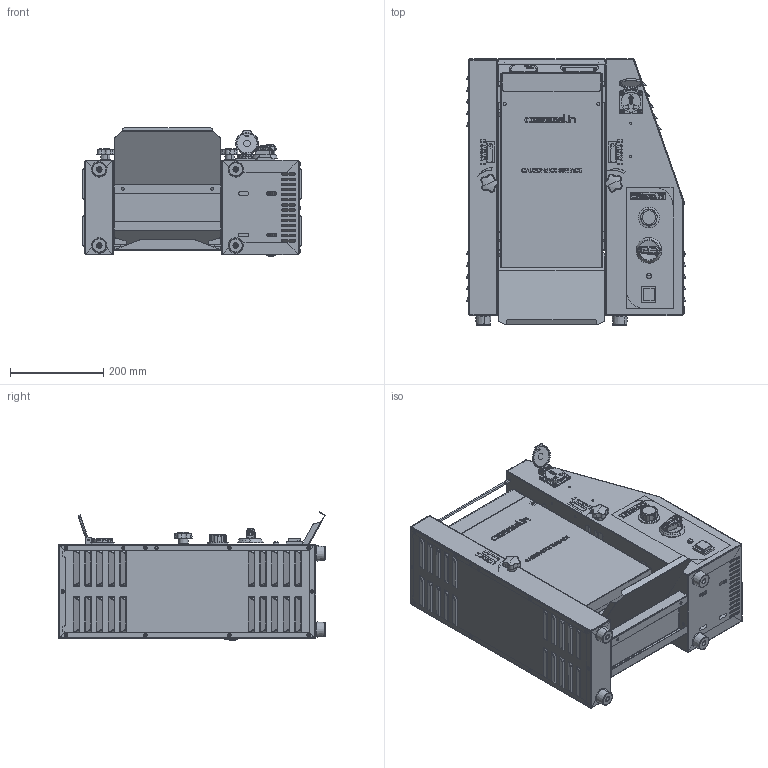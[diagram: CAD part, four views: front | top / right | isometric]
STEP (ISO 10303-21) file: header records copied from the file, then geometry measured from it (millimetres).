
FILE_DESCRIPTION (( 'STEP AP214' ), '1' );
FILE_NAME ('pres-CTV300GV.STEP', '2025-01-29T10:54:30', ( '' ), ( '' ), 'SwSTEP 2.0', 'SolidWorks 2025', '' );
FILE_SCHEMA (( 'AUTOMOTIVE_DESIGN' ));
Length unit declared in the file: millimetre
Products named in the file (74): ______________-1-solid1_1_1CG-300_______________-1-solid1_1_1; pres-CTV300GV; PA10139 __________-1-solid1_1GV-300_PA10139 __________-1-solid1_1; cross recessed pan head screws gb-69-solid1_1_1CG-300_cross recessed pan head screws gb-69-solid1_1_1; PA10139-1 __________-1-solid1_2CG-300_PA10139-1 __________-1-solid1_2; cross recessed pan head screws gb-67-solid1_1_1CG-300_cross recessed pan head screws gb-67-solid1_1_1; M01____ ____-1-solid1_1_1CG-300_M01____ ____-1-solid1_1_1; plain washers--product grade c gb-13-solid1_1CG-300_plain washers--product grade c gb-13-solid1_1; plain washers--product grade c gb-1-solid1_1_1CG-300_plain washers--product grade c gb-1-solid1_1_1; Etiquette-logo-casselin-toasteur-verticalGV; cross recessed pan head screws gb-63-solid1_1_1CG-300_cross recessed pan head screws gb-63-solid1_1_1; IP55______-1-solid1_1_1CG-300_IP55______-1-solid1_1_1; PA10139-1 ______-1-solid1_2_1CG-300_PA10139-1 ______-1-solid1_2_1; PA10139-1 __________-1-solid1_1_1CG-300_PA10139-1 __________-1-solid1_1_1; LOGO-CASSELIN-toasteur-verticalGV; PA10139-1 ________________-3-solid1_1_1CG-300_PA10139-1 ________________-3-solid1_1_1; plain washers--product grade c gb-16-solid1_1_1CG-300_plain washers--product grade c gb-16-solid1_1_1; cross recessed pan head screws gb-65-solid1_1_1CG-300_cross recessed pan head screws gb-65-solid1_1_1; Etiquette-ep-toasteur-vertical-fleche; A05____-1-solid1_1CG-300_A05____-1-solid1_1; IP55________ -1-solid3_1_1CG-300_IP55________ -1-solid3_1_1; M01____ __-1-solid1_1_1CG-300_M01____ __-1-solid1_1_1; PA10139R-1_2CG-300_PA10139R-1_2; PA10139R ______-1-solid1_1CG-300_PA10139R ______-1-solid1_1; IP55________ -1-solid8_1_1CG-300_IP55________ -1-solid8_1_1; __________-1-solid1_1_1CG-300___________-1-solid1_1_1; inscription-casselin; M8____ ________-1-solid1_1_2CG-300_M8____ ________-1-solid1_1_2; Etiquette-ep-gauche-toasteur-vertical-sans-chiffre-Symetrique; PA10139 ______________-1-solid1_1_1CG-300_PA10139 ______________-1-solid1_1_1; PA10139R-1_3CG-300_PA10139R-1_3; cross recessed pan head screws gb-64-solid1_1_1CG-300_cross recessed pan head screws gb-64-solid1_1_1; spring lock washers--normal type gb-1-solid1_1_1CG-300_spring lock washers--normal type gb-1-solid1_1_1; IP55________-1-solid1_2_1CG-300_IP55________-1-solid1_2_1; PA10139 __________-1-solid1_1_1CG-300_PA10139 __________-1-solid1_1_1; IP55________-1-solid1_1_1CG-300_IP55________-1-solid1_1_1; Etiquette-ep-gauche-toasteur-vertical-chiffre; PA10139R-1_4CG-300_PA10139R-1_4; IP55________ -1-solid5_1_1CG-300_IP55________ -1-solid5_1_1; M01____ __-1-solid1_2_1CG-300_M01____ __-1-solid1_2_1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
Assembly tree (79 placements, depth 3):
  pres-CTV300GV
    IP55________ -1-solid7_1_1CG-300_IP55________ -1-solid7_1_1
    PA10139 ______________-4-solid1_1_1CG-300_PA10139 ______________-4-solid1_1_1
    IP55________ -1-solid4_1_1CG-300_IP55________ -1-solid4_1_1
    plain washers--product grade c gb-13-solid1_1CG-300_plain washers--product grade c gb-13-solid1_1
    plain washers--product grade c gb-16-solid1_1_1CG-300_plain washers--product grade c gb-16-solid1_1_1
    IP55________-1-solid1_1_1CG-300_IP55________-1-solid1_1_1
    IP55______-1-solid1_1_1CG-300_IP55______-1-solid1_1_1
    PA10139 __________-1-solid1_1_1CG-300_PA10139 __________-1-solid1_1_1
    PA10139R ________-2-solid1_1CG-300_PA10139R ________-2-solid1_1
    M01____ __-1-solid1_1_1CG-300_M01____ __-1-solid1_1_1
    __________-1-solid1_1_1CG-300___________-1-solid1_1_1
    PA10139 ______________-6-solid1_1_1CG-300_PA10139 ______________-6-solid1_1_1
    PA10139 __________-2-solid1_1_1CG-300_PA10139 __________-2-solid1_1_1
    cross recessed pan head screws gb-66-solid1_1_1CG-300_cross recessed pan head screws gb-66-solid1_1_1
    IP55________ -1-solid3_1_1CG-300_IP55________ -1-solid3_1_1
    cross recessed pan head screws gb-64-solid1_1_1CG-300_cross recessed pan head screws gb-64-solid1_1_1
    M01____ ____-1-solid1_1_1CG-300_M01____ ____-1-solid1_1_1
    IP55________-1-solid1_2_1CG-300_IP55________-1-solid1_2_1
    IP55________ -1-solid5_1_1CG-300_IP55________ -1-solid5_1_1
    PA10139-1 ____________-1-solid1_1_1CG-300_PA10139-1 ____________-1-solid1_1_1
    M01____ ____-1-solid1_2_1CG-300_M01____ ____-1-solid1_2_1
    PA10139 ________-1-solid1_1_1CG-300_PA10139 ________-1-solid1_1_1
    M01____ __-1-solid1_2_1CG-300_M01____ __-1-solid1_2_1
    cross recessed pan head screws gb-62-solid1_1_1CG-300_cross recessed pan head screws gb-62-solid1_1_1
    PA10139R-1_1CG-300_PA10139R-1_1
    PA10139-1 __________-1-solid1_1_1CG-300_PA10139-1 __________-1-solid1_1_1
    cross recessed pan head screws gb-68-solid1_1_1CG-300_cross recessed pan head screws gb-68-solid1_1_1
    PA10139-1 ______-1-solid1_1_2CG-300_PA10139-1 ______-1-solid1_1_2
    cross recessed pan head screws gb-63-solid1_1_1CG-300_cross recessed pan head screws gb-63-solid1_1_1
    PA10139R ______-1-solid1_1CG-300_PA10139R ______-1-solid1_1
    plain washers--product grade c gb-1-solid1_1_1CG-300_plain washers--product grade c gb-1-solid1_1_1
    PA10139R-1_2CG-300_PA10139R-1_2
    hex nuts, style 1-grades ab gb-2-solid1_1CG-300_hex nuts, style 1-grades ab gb-2-solid1_1
    IP55________ -1-solid8_1_1CG-300_IP55________ -1-solid8_1_1
    IP55________ -1-solid6_1_1CG-300_IP55________ -1-solid6_1_1
    ______________-1-solid1_1_1CG-300_______________-1-solid1_1_1
    cross recessed pan head screws gb-69-solid1_1_1CG-300_cross recessed pan head screws gb-69-solid1_1_1
    PA10139-1 ____________-1-solid1_1_2CG-300_PA10139-1 ____________-1-solid1_1_2
    PA10139R-1_3CG-300_PA10139R-1_3
    PA10139R-1_4CG-300_PA10139R-1_4
    IP55________ -1-solid1_1_1CG-300_IP55________ -1-solid1_1_1
    cross recessed pan head screws gb-67-solid1_1_1CG-300_cross recessed pan head screws gb-67-solid1_1_1
    cross recessed pan head screws gb-70-solid1_1_1CG-300_cross recessed pan head screws gb-70-solid1_1_1
    PA10139 ______________-1-solid1_1_1CG-300_PA10139 ______________-1-solid1_1_1
    PA10139R-1_5CG-300_PA10139R-1_5
    __________________-1-solid1_1_1CG-300___________________-1-solid1_1_1
    spring lock washers--normal type gb-1-solid1_1_1CG-300_spring lock washers--normal type gb-1-solid1_1_1
    __________-1-solid1_2_1CG-300___________-1-solid1_2_1
    PA10139-1 ________________-3-solid1_1_1CG-300_PA10139-1 ________________-3-solid1_1_1
    PA10139-1 ______-1-solid1_1_3CG-300_PA10139-1 ______-1-solid1_1_3
    M01____ ________-1-solid1_1_1CG-300_M01____ ________-1-solid1_1_1
    PA10139-1 ______-1-solid1_2_1CG-300_PA10139-1 ______-1-solid1_2_1
    PA10139-1 ________________-4-solid1_1_1CG-300_PA10139-1 ________________-4-solid1_1_1
    M8____ ________-1-solid1_1_2CG-300_M8____ ________-1-solid1_1_2  x2
    cross recessed pan head screws gb-65-solid1_1_1CG-300_cross recessed pan head screws gb-65-solid1_1_1
    PA10139-1 __________-1-solid1_2CG-300_PA10139-1 __________-1-solid1_2
    PA10139-1 ____-1-solid1_1_1CG-300_PA10139-1 ____-1-solid1_1_1
    PA10139-1 ________________-1-solid1_1_1CG-300_PA10139-1 ________________-1-solid1_1_1
    PA10139 __________-1-solid1_1GV-300_PA10139 __________-1-solid1_1
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Bounding box: 469.86 x 570.14 x 274.29 mm (x, y, z)
Volume: 2173538.5 mm3; surface area: 3010916.2 mm2
Topology: 121 solids, 127 shells, 5737 faces, 14132 edges, 8832 vertices
Faces by surface type: plane 2685, cylinder 1791, bspline 912, cone 216, torus 103, sphere 30
Entity records: 223345 total; most frequent: CARTESIAN_POINT 79814, ORIENTED_EDGE 27080, DIRECTION 23937, EDGE_CURVE 13540, VERTEX_POINT 8471, AXIS2_PLACEMENT_3D 8151, LINE 7635, VECTOR 7635
